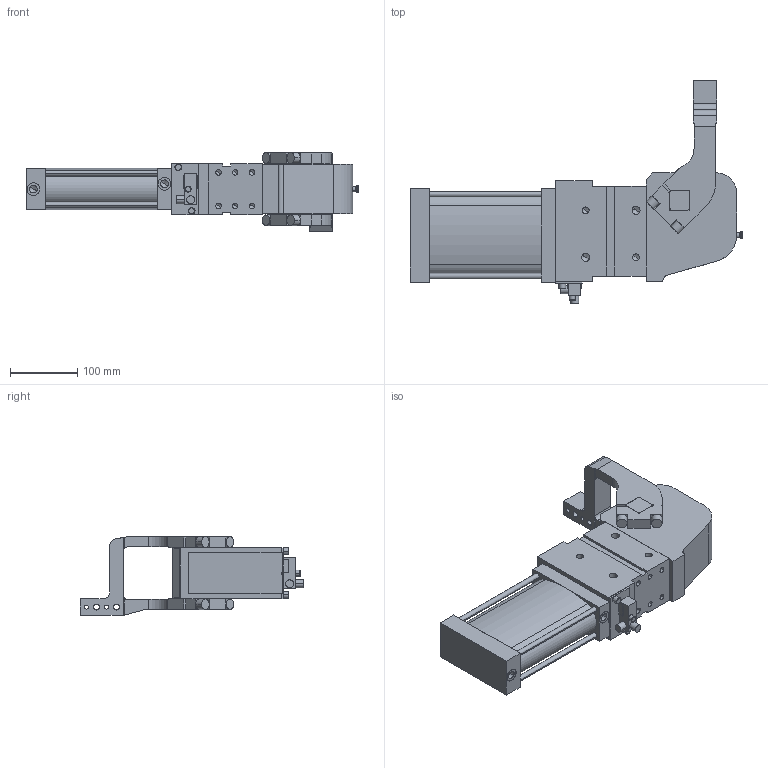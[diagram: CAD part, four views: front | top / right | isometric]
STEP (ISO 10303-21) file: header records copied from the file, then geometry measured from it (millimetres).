
FILE_DESCRIPTION (( 'STEP AP214' ), '1' );
FILE_NAME ('AKUHV80-R01W12.STEP', '2026-07-07T17:56:16', ( '' ), ( '' ), 'SwSTEP 2.0', 'SolidWorks 2019', '' );
FILE_SCHEMA (( 'AUTOMOTIVE_DESIGN' ));
Length unit declared in the file: millimetre
Products named in the file (3): AKUHV80-R01W12; 80-R01; AKUHV80-Z00W12
Assembly tree (2 placements, depth 2):
  AKUHV80-R01W12
    AKUHV80-Z00W12
    80-R01
Bounding box: 495 x 333 x 117.5 mm (x, y, z)
Volume: 3955681.1 mm3; surface area: 381504.4 mm2
Topology: 2 solids, 3 shells, 356 faces, 910 edges, 548 vertices
Faces by surface type: plane 161, cylinder 127, cone 56, torus 12
Entity records: 13390 total; most frequent: CARTESIAN_POINT 2024, DIRECTION 1858, ORIENTED_EDGE 1732, EDGE_CURVE 866, AXIS2_PLACEMENT_3D 659, VERTEX_POINT 548, LINE 540, VECTOR 540
